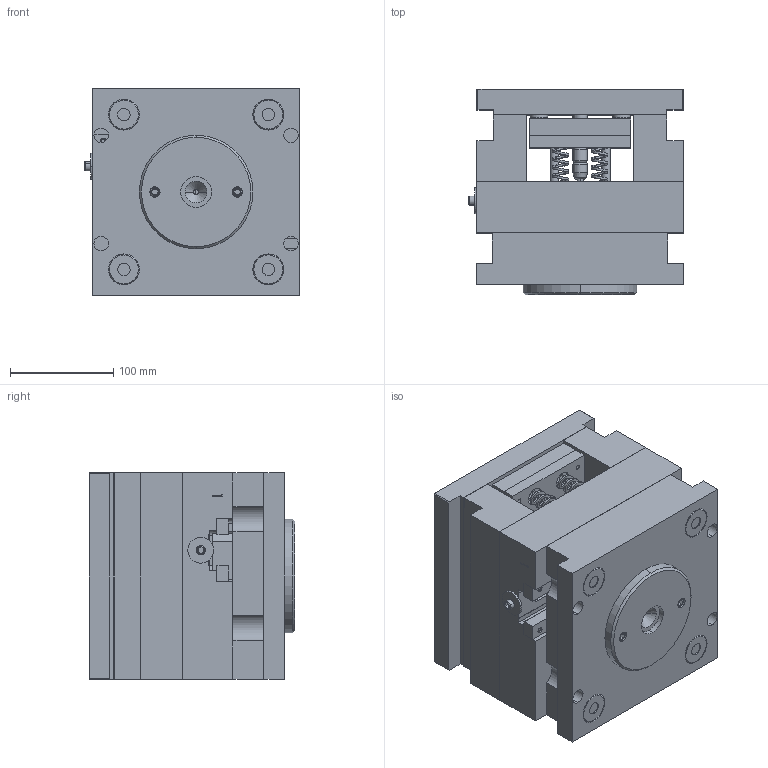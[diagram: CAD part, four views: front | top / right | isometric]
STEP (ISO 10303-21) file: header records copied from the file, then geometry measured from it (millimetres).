
FILE_DESCRIPTION (( 'STEP AP214' ), '1' );
FILE_NAME ('moule complet vierge.STEP', '2015-02-11T17:20:24', ( '' ), ( '' ), 'SwSTEP 2.0', 'SolidWorks 2012', '' );
FILE_SCHEMA (( 'AUTOMOTIVE_DESIGN' ));
Length unit declared in the file: millimetre
Products named in the file (38): batterie; insert plaque éjection; plaque éjection; insert contre plaque éjection; contre plaque éjection; colone de guidage; ressort; arrache carotte; rappel bat; vis chc M5 batterie; goup d4; partie mobile; butée; Sym彋rier銶le tiroir1; règle tiroir; insert mobile; bille vis de retenue; vis de retenue; porte insert mobile; bague 1; bague 2; Colonn; plaque mobile; Tassea~1; vis chc M10 mobile; rondelle; vis chc M3 règle; partie fixe; insert fixe; bague; semelle fixe; Colonn3; Goup41; buse; vis chc M6 insert; vis chc M6 couronne; moule complet vierge
Assembly tree (80 placements, depth 3):
  moule complet vierge
    partie fixe
      vis chc M6 couronne  x2
      vis chc M6 insert  x2
      buse
      Goup41
      Colonn3  x4
      semelle fixe
      bague
      insert fixe
    partie mobile
      vis chc M3 règle  x4
      vis chc M6 insert  x2
      rondelle
      vis chc M6 couronne
      vis chc M10 mobile  x4
      Tassea~1
      Tassea~1
      plaque mobile
      Colonn  x2
      bague 2  x4
      bague 1  x4
      porte insert mobile
      vis de retenue
      bille vis de retenue
      insert mobile
      règle tiroir
      Sym彋rier銶le tiroir1
      butée  x6
    batterie
      goup d4  x4
      vis chc M5 batterie  x6
      rappel bat  x4
      arrache carotte
      ressort  x4
      colone de guidage  x2
      contre plaque éjection
      insert contre plaque éjection  x2
      plaque éjection
      insert plaque éjection  x2
Bounding box: 208 x 199.3 x 200 mm (x, y, z)
Volume: 6096328.6 mm3; surface area: 904658.8 mm2
Topology: 77 solids, 77 shells, 1584 faces, 3590 edges, 2278 vertices
Faces by surface type: cylinder 670, plane 579, cone 185, torus 114, bspline 22, sphere 14
Entity records: 33272 total; most frequent: CARTESIAN_POINT 7490, DIRECTION 5280, ORIENTED_EDGE 4426, EDGE_CURVE 2213, AXIS2_PLACEMENT_3D 2095, VERTEX_POINT 1441, EDGE_LOOP 1230, LINE 1090
